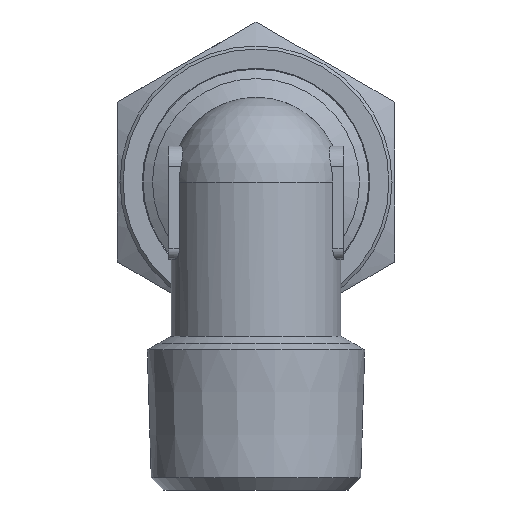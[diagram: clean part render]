
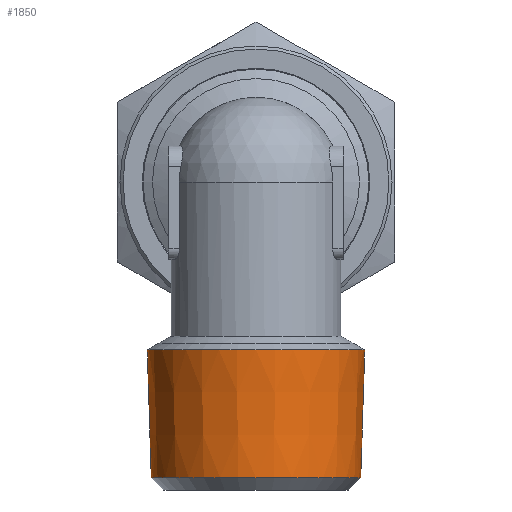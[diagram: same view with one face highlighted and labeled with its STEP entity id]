
A CAD part, left-side view. The second image highlights one B-rep face of the part: STEP entity #1850.
In plain terms, the highlighted conical face has half-angle 1.79 degrees and reference radius 10.591 mm.
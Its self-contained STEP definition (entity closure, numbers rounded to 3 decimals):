
#1850=ADVANCED_FACE('', (#1860,#1870), #1880, .T.);
#6740=AXIS2_PLACEMENT_3D('Ax2Pl3d', #6750, #6760, #6770);
#6900=AXIS2_PLACEMENT_3D('Ax2Pl3d', #6910, #6920, #6930);
#6940=AXIS2_PLACEMENT_3D('Ax2Pl3d', #6950, #6960, #6970);
#6750=CARTESIAN_POINT('HicPkt', (20.918,21.271,23.15));
#32250=CARTESIAN_POINT('', (20.918,10.68,23.15));
#6910=CARTESIAN_POINT('HicPkt', (20.918,21.271,10.702));
#32280=CARTESIAN_POINT('', (20.918,11.069,10.702));
#6950=CARTESIAN_POINT('HicPkt', (20.918,21.271,23.15))
;
#33060=CIRCLE('Circle', #6740, 10.592);
#33090=CIRCLE('Circle', #6900, 10.203);
#1880=CONICAL_SURFACE('Kegel', #6940, 10.592, 
0.031);
#6760=DIRECTION('Axis', (0.,0.,1.));
#6770=DIRECTION('RefDirection', (1.,0.,-0.));
#6920=DIRECTION('Axis', (0.,0.,-1.));
#6930=DIRECTION('RefDirection', (-1.,-0.,0.));
#6960=DIRECTION('Axis', (0.,0.,1.));
#6970=DIRECTION('RefDirection', (1.,0.,-0.));
#40220=EDGE_CURVE('', #40230, #40230, #33060, .T.);
#40280=EDGE_CURVE('', #40290, #40290, #33090, .T.);
#43830=EDGE_LOOP('Edge_loop', (#43840));
#43850=EDGE_LOOP('Edge_loop', (#43860));
#1870=FACE_BOUND('', #43850, .T.);
#1860=FACE_OUTER_BOUND('Face_outer_bound', #43830, .T.);
#43840=ORIENTED_EDGE('', *, *, #40220, .F.);
#43860=ORIENTED_EDGE('', *, *, #40280, .F.);
#40230=VERTEX_POINT('', #32250);
#40290=VERTEX_POINT('', #32280);
